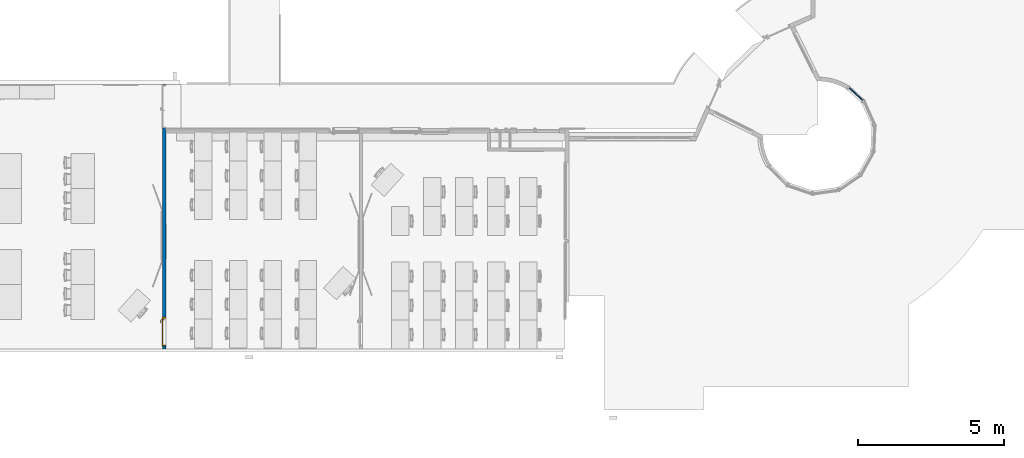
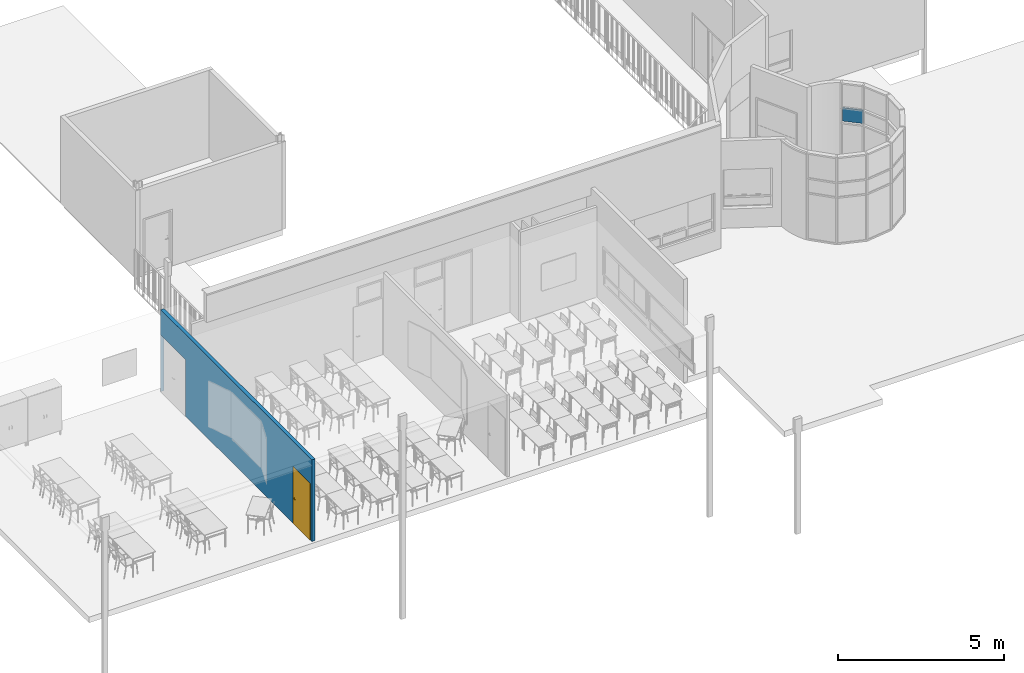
# One storey, part 17 of 44: 1 door, 1 plate, 1 wall, 2 openings, 1 element without a shape of its own.
"""IFC2X3 building model written with IfcOpenShell, lengths in centimetres."""

from ifc_helpers import new_model, entity, si_unit, converted_unit, derived_unit, direction, frame, frame_2d, origin, place, context, subcontext, project, spatial, rectangle, extrude, faceted_brep, source, transform, mapped, material, material_list, layer, layer_set, layer_usage, type_object, type_shapes, element, fill, aggregate, save


model = new_model("IFC2X3")

# Units and contexts
model_context = context("Model", 3, precision=0.001, world=origin(), true_north=direction((6.12303176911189e-17, 1.0)))
body_context = subcontext(model_context, "Body", "Model", "MODEL_VIEW")
ifc_project = project(units=[si_unit("LENGTHUNIT", "METRE", prefix="CENTI"), si_unit("AREAUNIT", "SQUARE_METRE"), si_unit("VOLUMEUNIT", "CUBIC_METRE"), converted_unit("PLANEANGLEUNIT", "DEGREE", entity("IfcRatioMeasure", 0.0174532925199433), si_unit("PLANEANGLEUNIT", "RADIAN"), dimensions=[0, 0, 0, 0, 0, 0, 0]), si_unit("MASSUNIT", "GRAM", prefix="KILO"), si_unit("TIMEUNIT", "SECOND"), si_unit("FREQUENCYUNIT", "HERTZ"), si_unit("THERMODYNAMICTEMPERATUREUNIT", "DEGREE_CELSIUS"), derived_unit("THERMALTRANSMITTANCEUNIT", [(si_unit("MASSUNIT", "GRAM", prefix="KILO"), 1), (si_unit("THERMODYNAMICTEMPERATUREUNIT", "KELVIN"), -1), (si_unit("TIMEUNIT", "SECOND"), -3)]), derived_unit("VOLUMETRICFLOWRATEUNIT", [(si_unit("LENGTHUNIT", "METRE"), 3), (si_unit("TIMEUNIT", "SECOND"), -1)]), si_unit("ELECTRICCURRENTUNIT", "AMPERE"), si_unit("ELECTRICVOLTAGEUNIT", "VOLT"), si_unit("POWERUNIT", "WATT"), si_unit("FORCEUNIT", "NEWTON", prefix="KILO"), si_unit("ILLUMINANCEUNIT", "LUX"), si_unit("LUMINOUSFLUXUNIT", "LUMEN"), si_unit("LUMINOUSINTENSITYUNIT", "CANDELA"), derived_unit("USERDEFINED", [(si_unit("MASSUNIT", "GRAM", prefix="KILO"), -1), (si_unit("LENGTHUNIT", "METRE"), -2), (si_unit("TIMEUNIT", "SECOND"), 3), (si_unit("LUMINOUSFLUXUNIT", "LUMEN"), 1)]), derived_unit("LINEARVELOCITYUNIT", [(si_unit("LENGTHUNIT", "METRE"), 1), (si_unit("TIMEUNIT", "SECOND"), -1)]), si_unit("PRESSUREUNIT", "PASCAL"), derived_unit("USERDEFINED", [(si_unit("LENGTHUNIT", "METRE"), -2), (si_unit("MASSUNIT", "GRAM", prefix="KILO"), 1), (si_unit("TIMEUNIT", "SECOND"), -2)])], contexts=[model_context])

# Site, building, storey
site_placement = place(None, frame((8.62739174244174, -249.285249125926, 0.0)))
site = spatial("IfcSite", under=ifc_project, at=site_placement, Name="Default", CompositionType="ELEMENT")
building_placement = place(site_placement, origin())
building = spatial("IfcBuilding", under=site, at=building_placement, CompositionType="ELEMENT")
storey_placement = place(building_placement, frame((0.0, 0.0, 343.0)))
storey = spatial("IfcBuildingStorey", under=building, at=storey_placement, Name="R+1", CompositionType="ELEMENT", Elevation=343.0)

# Curtain wall, plate
curtain_wall_type = type_object("IfcCurtainWallType", Name="Mur-rideau:1 m x 1 m - Meneaux", PredefinedType="NOTDEFINED")
curtain_wall_placement = place(storey_placement, frame((0.0, 0.0, -343.0)))
curtain_wall = element("IfcCurtainWall", 1, at=curtain_wall_placement, inside=storey, type_object=curtain_wall_type, Name="Mur-rideau:1 m x 1 m - Meneaux", ObjectType="Mur-rideau:1 m x 1 m - Meneaux")
ifc_material_1 = material(Name="Verre")
plate_type = type_object("IfcPlateType", Name="Vitré", PredefinedType="CURTAIN_PANEL", material=ifc_material_1)
shared_shape_1 = source(origin(), body_context, "Body", "SweptSolid", [
    extrude(rectangle(XDim=4.0, YDim=64.0880306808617, at=frame_2d((0.0, 1.4210854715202e-14), x_axis=(1.0, 0.0))), frame((0.0, -2.50000000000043, 0.0), z_axis=(0.0, 0.0, 1.0), x_axis=(0.0, 1.0, 0.0)), (0.0, 0.0, 1.0), 49.0),
])
type_shapes(plate_type, [shared_shape_1])
plate_placement = place(curtain_wall_placement, frame((3173.68969078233, 895.928197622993, 517.5), z_axis=(0.0, 0.0, 1.0), x_axis=(-0.742869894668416, 0.669435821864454, 0.0)))
plate = element("IfcPlate", 2, at=plate_placement, type_object=plate_type, material=ifc_material_1, Name="Panneau système:Vitré", ObjectType="Vitré", context=body_context, shape_type="MappedRepresentation", body=[
    mapped(shared_shape_1, transform((0.0, 0.0, 0.0), scale=1.0)),
])
aggregate(curtain_wall, [plate])

# Wall, openings, door
ifc_material_2 = material(Name="Plâtre")
ifc_layer = layer(ifc_material_2, 12.0)
ifc_layer_set = layer_set([ifc_layer], Name="Mur de base:PLA 12")
ifc_layer_usage = layer_usage(ifc_layer_set, "AXIS2", "NEGATIVE", 6.0)
wall_type = type_object("IfcWallType", Name="Mur de base:PLA 12", PredefinedType="STANDARD", material=ifc_layer_set)
wall_placement = place(storey_placement, frame((797.905471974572, 931.0, 0.0), z_axis=(0.0, 0.0, 1.0), x_axis=(0.0, -1.0, 0.0)))
wall = element("IfcWallStandardCase", 3, at=wall_placement, inside=storey, type_object=wall_type, material=ifc_layer_usage, Name="Mur de base:PLA 12", ObjectType="Mur de base:PLA 12", context=body_context, shape_type="SweptSolid", body=[
    extrude(rectangle(XDim=909.0, YDim=12.0000000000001, at=frame_2d((454.5, 2.22044604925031e-14), x_axis=(-1.0, 0.0))), origin(), (0.0, 0.0, 1.0), 300.0),
])
opening_1_placement = place(wall_placement, frame((899.0, 6.0, 0.0)))
opening_1 = element("IfcOpeningElement", 4, at=opening_1_placement, cuts=wall, Name="Simple(R)_bois_mu:93 x 204 cm:1", ObjectType="Opening", context=body_context, shape_type="SweptSolid", body=[
    extrude(rectangle(XDim=207.499999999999, YDim=99.9999999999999, at=frame_2d((103.749999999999, 50.0), x_axis=(1.0, 0.0))), frame((0.0, 0.0, 0.0), z_axis=(0.0, -1.0, 0.0), x_axis=(0.0, 0.0, 1.0)), (0.0, 0.0, 1.0), 12.0),
])
opening_2_placement = place(wall_placement, frame((150.0, 6.0, 0.0)))
element("IfcOpeningElement", 5, at=opening_2_placement, cuts=wall, Name="Tierce(R)_bois_mu:143 x 204 cm:1", ObjectType="Opening", context=body_context, shape_type="SweptSolid", body=[
    extrude(rectangle(XDim=206.999999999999, YDim=149.0, at=frame_2d((103.499999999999, 74.4999999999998), x_axis=(1.0, 0.0))), frame((0.0, 0.0, 0.0), z_axis=(0.0, -1.0, 0.0), x_axis=(0.0, 0.0, 1.0)), (0.0, 0.0, 1.0), 12.0),
])
ifc_material_3 = material(Name="Porte - Poignée")
ifc_material_4 = material(Name="Porte - Cadre")
ifc_material_5 = material(Name="Porte - Panneau")
ifc_material_list_1 = material_list([ifc_material_3, ifc_material_4, ifc_material_5])
ifc_material_list_2 = material_list([ifc_material_3, ifc_material_4, ifc_material_5])
door_style = type_object("IfcDoorStyle", Name="93 x 204 cm", ConstructionType="NOTDEFINED", OperationType="SINGLE_SWING_RIGHT", ParameterTakesPrecedence=False, Sizeable=False, material=ifc_material_list_2)
shared_shape_2 = source(origin(), body_context, "Body", "Brep", [
    faceted_brep([(8.79747013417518, 3.69999999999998, 100.778044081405), (8.3999999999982, 3.69999999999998, 100.699999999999), (8.39999999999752, 3.69999999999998, 99.2999999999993), (8.79747013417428, 3.69999999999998, 99.2219559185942), (9.20252986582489, 3.69999999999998, 99.2219559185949), (9.60000000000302, 3.69999999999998, 99.3000000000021), (9.60000000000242, 3.69999999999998, 100.699999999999), (9.2025298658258, 3.69999999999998, 100.778044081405), (9.60000000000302, 5.94852045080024, 99.3000000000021), (9.60000000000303, 5.94852045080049, 100.699999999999), (9.20252986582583, 6.1131579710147, 100.778044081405), (10.5838906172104, 7.49451872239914, 100.778044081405), (10.4161093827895, 7.89957845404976, 100.778044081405), (8.79747013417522, 6.2809392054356, 100.778044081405), (19.5684749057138, 6.84673156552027, 100.778044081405), (19.8548953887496, 7.13315204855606, 100.778044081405), (19.0884689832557, 7.89957845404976, 100.778044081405), (18.9206877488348, 7.49451872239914, 100.778044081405), (8.39999999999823, 6.44557672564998, 100.699999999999), (8.3999999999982, 6.44557672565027, 99.2999999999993), (8.79747013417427, 6.28093920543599, 99.2219559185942), (10.4161093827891, 7.8995784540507, 99.2219559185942), (10.58389061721, 7.49451872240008, 99.2219559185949), (9.20252986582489, 6.11315797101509, 99.2219559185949), (19.8548953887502, 7.13315204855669, 99.2219559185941), (19.5684749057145, 6.84673156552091, 99.2219559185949), (18.9206877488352, 7.49451872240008, 99.2219559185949), (19.088468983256, 7.8995784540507, 99.2219559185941), (10.7485281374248, 7.09704858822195, 99.3000000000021), (10.748528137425, 7.09704858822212, 100.699999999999), (10.2514718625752, 8.29704858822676, 100.699999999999), (10.2514718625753, 8.29704858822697, 99.2999999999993), (14.7522904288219, 7.09704858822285, 99.3000000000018), (18.7560502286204, 7.09704858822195, 99.3000000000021), (18.7560502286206, 7.09704858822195, 100.699999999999), (14.7522891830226, 7.09704858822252, 100.699999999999), (14.7522891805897, 7.71249275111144, 100.787811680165), (19.25310650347, 8.29704858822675, 100.699999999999), (15.2600577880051, 8.29704858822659, 100.699999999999), (19.2531065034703, 8.29704858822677, 99.2999999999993), (14.2445206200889, 8.29704858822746, 99.2999999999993), (14.7522892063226, 7.71249274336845, 99.2121883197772), (19.2874210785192, 6.56567773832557, 99.3000000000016), (20.1359492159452, 7.41420587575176, 99.2999999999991), (20.135949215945, 7.4142058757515, 100.699999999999), (19.287421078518, 6.5656777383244, 100.699999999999)], [[[0, 1, 2, 3, 4, 5, 6, 7]], [[6, 5, 8, 9]], [[9, 10, 7, 6]], [[10, 11, 12, 13, 0, 7]], [[14, 15, 16, 17]], [[13, 18, 1, 0]], [[2, 1, 18, 19]], [[19, 20, 3, 2]], [[20, 21, 22, 23, 4, 3]], [[24, 25, 26, 27]], [[23, 8, 5, 4]], [[9, 8, 28, 29]], [[29, 11, 10, 9]], [[12, 30, 18, 13]], [[19, 18, 30, 31]], [[31, 21, 20, 19]], [[22, 28, 8, 23]], [[29, 28, 32, 33, 34, 35]], [[11, 35, 36]], [[16, 37, 38]], [[30, 12, 38]], [[38, 12, 36]], [[36, 35, 17]], [[17, 16, 36]], [[35, 11, 29]], [[34, 17, 35]], [[11, 36, 12]], [[38, 36, 16]], [[31, 30, 38, 37, 39, 40]], [[40, 41, 21]], [[41, 40, 27]], [[21, 31, 40]], [[39, 27, 40]], [[41, 32, 22]], [[22, 21, 41]], [[26, 32, 41]], [[28, 22, 32]], [[32, 26, 33]], [[26, 41, 27]], [[42, 25, 24, 43, 44, 15, 14, 45]], [[34, 33, 42, 45]], [[45, 14, 17, 34]], [[15, 44, 37, 16]], [[39, 37, 44, 43]], [[43, 24, 27, 39]], [[25, 42, 33, 26]]]),
    faceted_brep([(8.79747013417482, -1.30000000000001, 100.778044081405), (9.20252986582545, -1.30000000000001, 100.778044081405), (9.6000000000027, -1.30000000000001, 100.699999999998), (9.60000000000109, -1.30000000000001, 99.3000000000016), (9.20252986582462, -1.30000000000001, 99.2219559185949), (8.79747013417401, -1.30000000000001, 99.2219559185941), (8.39999999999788, -1.30000000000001, 99.2999999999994), (8.39999999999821, -1.30000000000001, 100.699999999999), (8.39999999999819, -4.06509507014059, 100.699999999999), (8.7974701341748, -3.90045754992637, 100.778044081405), (10.402358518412, -5.50534593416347, 100.778044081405), (10.5701397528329, -5.10028620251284, 100.778044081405), (9.20252986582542, -3.73267631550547, 100.778044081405), (19.852181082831, -4.73891952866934, 100.778044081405), (19.5657605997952, -4.4524990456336, 100.778044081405), (18.9179734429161, -5.10028620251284, 100.778044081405), (19.085754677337, -5.50534593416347, 100.778044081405), (9.60000000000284, -3.56803879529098, 100.699999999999), (9.6000000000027, -3.56803879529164, 99.3000000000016), (9.20252986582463, -3.7326763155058, 99.2219559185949), (10.5701397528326, -5.10028620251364, 99.2219559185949), (10.4023585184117, -5.50534593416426, 99.2219559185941), (8.79747013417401, -3.9004575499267, 99.2219559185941), (19.5657605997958, -4.45249904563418, 99.2219559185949), (19.8521810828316, -4.73891952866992, 99.2219559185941), (19.0857546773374, -5.50534593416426, 99.2219559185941), (18.9179734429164, -5.10028620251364, 99.2219559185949), (8.39999999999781, -4.06509507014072, 99.2999999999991), (10.2377209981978, -5.90281606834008, 100.699999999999), (10.7347772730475, -4.70281606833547, 100.699999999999), (10.7347772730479, -4.70281606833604, 99.3000000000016), (10.2377209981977, -5.90281606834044, 99.2999999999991), (14.2307697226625, -5.90281606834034, 100.699999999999), (14.7440566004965, -5.31828027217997, 100.787811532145), (19.2503921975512, -5.90281606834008, 100.699999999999), (14.7440565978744, -4.70281606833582, 100.699999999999), (18.7533359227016, -4.70281606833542, 100.699999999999), (18.7533359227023, -4.70281606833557, 99.3000000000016), (14.7440563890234, -4.70281606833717, 99.3000000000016), (14.744056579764, -5.31828027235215, 99.2121884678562), (19.2503921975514, -5.90281606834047, 99.2999999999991), (15.2573433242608, -5.90281606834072, 99.2999999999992), (19.2847067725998, -4.1714452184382, 100.699999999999), (20.1332349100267, -5.01997335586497, 100.699999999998), (20.1332349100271, -5.01997335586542, 99.2999999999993), (19.2847067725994, -4.17144521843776, 99.3000000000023)], [[[0, 1, 2, 3, 4, 5, 6, 7]], [[8, 9, 0, 7]], [[9, 10, 11, 12, 1, 0]], [[13, 14, 15, 16]], [[12, 17, 2, 1]], [[3, 2, 17, 18]], [[18, 19, 4, 3]], [[19, 20, 21, 22, 5, 4]], [[23, 24, 25, 26]], [[22, 27, 6, 5]], [[7, 6, 27, 8]], [[28, 10, 9, 8]], [[11, 29, 17, 12]], [[18, 17, 29, 30]], [[30, 20, 19, 18]], [[21, 31, 27, 22]], [[8, 27, 31, 28]], [[32, 33, 10]], [[33, 32, 16]], [[10, 28, 32]], [[34, 16, 32]], [[33, 35, 11]], [[11, 10, 33]], [[15, 35, 33]], [[29, 11, 35]], [[35, 15, 36]], [[15, 33, 16]], [[30, 29, 35, 36, 37, 38]], [[20, 38, 39]], [[25, 40, 41]], [[31, 21, 41]], [[41, 21, 39]], [[39, 38, 26]], [[26, 25, 39]], [[38, 20, 30]], [[37, 26, 38]], [[20, 39, 21]], [[41, 39, 25]], [[28, 31, 41, 40, 34, 32]], [[42, 14, 13, 43, 44, 24, 23, 45]], [[43, 13, 16, 34]], [[14, 42, 36, 15]], [[37, 36, 42, 45]], [[45, 23, 26, 37]], [[24, 44, 40, 25]], [[34, 40, 44, 43]]]),
    faceted_brep([(10.03527618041, 3.19999999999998, 86.6003983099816), (11.0, 3.19999999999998, 87.0), (11.0, 3.19999999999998, 108.0), (10.03527618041, 3.19999999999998, 108.399601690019), (9.0, 3.19999999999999, 108.535898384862), (7.96472381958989, 3.19999999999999, 108.399601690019), (7.0, 3.19999999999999, 108.0), (7.0, 3.19999999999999, 87.0), (7.96472381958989, 3.19999999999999, 86.6003983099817), (9.0, 3.19999999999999, 86.4641016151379), (10.03527618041, 3.69999999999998, 108.399601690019), (11.0, 3.69999999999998, 108.0), (11.0, 3.69999999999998, 87.0), (10.03527618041, 3.69999999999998, 86.6003983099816), (9.0, 3.69999999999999, 86.4641016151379), (7.96472381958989, 3.69999999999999, 86.6003983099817), (7.0, 3.69999999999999, 87.0), (7.0, 3.69999999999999, 108.0), (7.96472381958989, 3.69999999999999, 108.399601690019), (9.0, 3.69999999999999, 108.535898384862)], [[[0, 1, 2, 3, 4, 5, 6, 7, 8, 9]], [[10, 11, 12, 13, 14, 15, 16, 17, 18, 19]], [[11, 10, 3, 2]], [[3, 10, 19, 4]], [[19, 18, 5, 4]], [[18, 17, 6, 5]], [[7, 6, 17, 16]], [[16, 15, 8, 7]], [[8, 15, 14, 9]], [[14, 13, 0, 9]], [[13, 12, 1, 0]], [[2, 1, 12, 11]]]),
    faceted_brep([(10.03527618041, -1.30000000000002, 86.6003983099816), (11.0, -1.30000000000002, 87.0), (11.0, -1.30000000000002, 108.0), (10.03527618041, -1.30000000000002, 108.399601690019), (9.0, -1.30000000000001, 108.535898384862), (7.9647238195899, -1.30000000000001, 108.399601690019), (7.0, -1.30000000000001, 108.0), (7.0, -1.30000000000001, 87.0), (7.96472381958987, -1.30000000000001, 86.6003983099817), (9.0, -1.30000000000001, 86.4641016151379), (10.03527618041, -0.800000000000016, 108.399601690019), (11.0, -0.800000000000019, 108.0), (11.0, -0.800000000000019, 87.0), (10.03527618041, -0.800000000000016, 86.6003983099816), (9.0, -0.800000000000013, 86.4641016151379), (7.96472381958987, -0.800000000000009, 86.6003983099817), (7.0, -0.800000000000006, 87.0), (7.0, -0.800000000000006, 108.0), (7.9647238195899, -0.800000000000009, 108.399601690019), (9.0, -0.800000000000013, 108.535898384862)], [[[0, 1, 2, 3, 4, 5, 6, 7, 8, 9]], [[10, 11, 12, 13, 14, 15, 16, 17, 18, 19]], [[16, 15, 8, 7]], [[8, 15, 14, 9]], [[14, 13, 0, 9]], [[13, 12, 1, 0]], [[2, 1, 12, 11]], [[11, 10, 3, 2]], [[3, 10, 19, 4]], [[19, 18, 5, 4]], [[18, 17, 6, 5]], [[7, 6, 17, 16]]]),
    faceted_brep([(0.0, 0.0, 0.0), (0.0, 12.0, 0.0), (-1.0, 12.0, 0.0), (-1.0, 12.8000000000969, 0.0), (4.49999999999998, 12.8000000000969, 0.0), (4.49999999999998, 3.2, 0.0), (3.49999999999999, 3.2, 0.0), (3.49999999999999, -0.799999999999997, 0.0), (-1.0, -0.799999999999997, 0.0), (-1.0, 0.0, 0.0), (0.0, 0.0, 207.499999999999), (0.0, 12.0, 207.499999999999), (100.0, 12.0, 207.499999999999), (100.0, 12.0, 0.0), (101.0, 12.0, 0.0), (101.0, 12.0, 208.499999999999), (-1.0, 12.0, 208.499999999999), (-1.0, 12.8000000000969, 208.499999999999), (101.0, 12.8000000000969, 208.499999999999), (101.0, 12.8000000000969, 0.0), (95.5, 12.8000000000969, 0.0), (95.5, 12.8000000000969, 203.0), (4.49999999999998, 12.8000000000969, 203.0), (4.49999999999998, 3.2, 203.0), (95.5, 3.2, 203.0), (95.5, 3.2, 0.0), (96.5, 3.2, 0.0), (96.5, 3.2, 204.0), (3.49999999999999, 3.2, 204.0), (3.49999999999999, -0.799999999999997, 204.0), (96.5, -0.799999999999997, 204.0), (96.5, -0.799999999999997, 0.0), (101.0, -0.799999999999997, 0.0), (101.0, -0.799999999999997, 208.499999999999), (-1.0, -0.799999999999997, 208.499999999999), (-1.0, 0.0, 208.499999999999), (101.0, 0.0, 208.499999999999), (101.0, 0.0, 0.0), (100.0, 0.0, 0.0), (100.0, 0.0, 207.499999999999)], [[[0, 1, 2, 3, 4, 5, 6, 7, 8, 9]], [[1, 0, 10, 11]], [[2, 1, 11, 12, 13, 14, 15, 16]], [[3, 2, 16, 17]], [[4, 3, 17, 18, 19, 20, 21, 22]], [[5, 4, 22, 23]], [[6, 5, 23, 24, 25, 26, 27, 28]], [[7, 6, 28, 29]], [[8, 7, 29, 30, 31, 32, 33, 34]], [[9, 8, 34, 35]], [[0, 9, 35, 36, 37, 38, 39, 10]], [[12, 39, 38, 13]], [[38, 37, 32, 31, 26, 25, 20, 19, 14, 13]], [[18, 15, 14, 19]], [[24, 21, 20, 25]], [[30, 27, 26, 31]], [[36, 33, 32, 37]], [[11, 10, 39, 12]], [[17, 16, 15, 18]], [[23, 22, 21, 24]], [[29, 28, 27, 30]], [[35, 34, 33, 36]]]),
    faceted_brep([(3.49999999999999, -0.799999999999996, 204.0), (3.49999999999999, -0.799999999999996, 0.0), (96.5, -0.799999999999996, 0.0), (96.5, -0.799999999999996, 204.0), (3.49999999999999, 3.2, 204.0), (96.5, 3.2, 204.0), (96.5, 3.2, 0.0), (3.49999999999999, 3.2, 0.0)], [[[0, 1, 2, 3]], [[4, 5, 6, 7]], [[1, 0, 4, 7]], [[2, 1, 7, 6]], [[3, 2, 6, 5]], [[0, 3, 5, 4]]]),
])
type_shapes(door_style, [shared_shape_2])
door_placement = place(opening_1_placement, frame((-100.0, -12.0, 0.0)))
door = element("IfcDoor", 6, at=door_placement, inside=storey, type_object=door_style, material=ifc_material_list_1, Name="Simple(R)_bois_mu:93 x 204 cm", ObjectType="93 x 204 cm", OverallHeight=207.499999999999, OverallWidth=99.9999999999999, context=body_context, shape_type="MappedRepresentation", body=[
    mapped(shared_shape_2, transform((0.0, 0.0, 0.0), scale=1.0)),
])
fill(opening_1, door)

save(model, "model.ifc")
